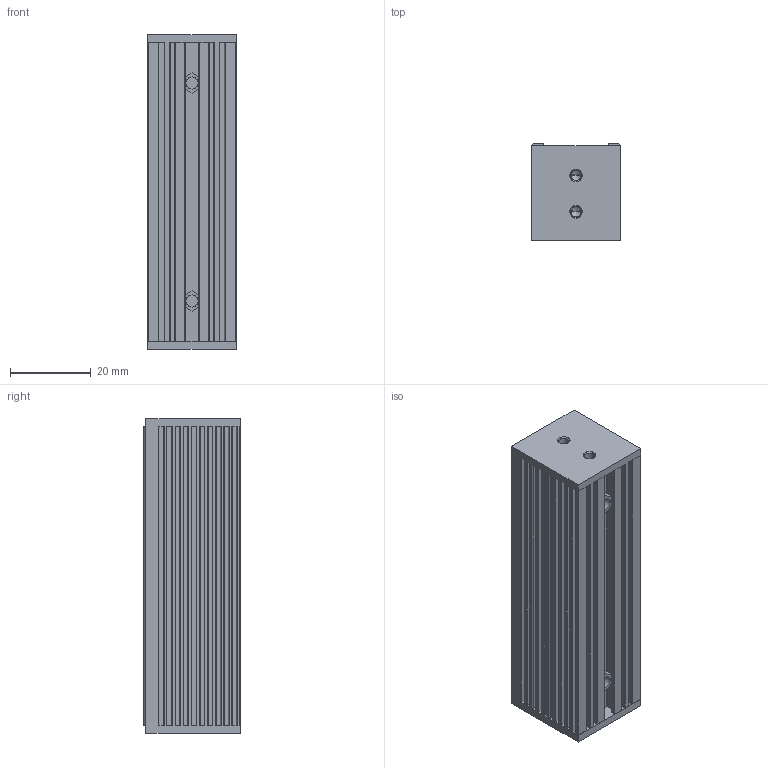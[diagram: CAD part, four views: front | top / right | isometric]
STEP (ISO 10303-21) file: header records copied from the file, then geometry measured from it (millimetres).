
FILE_DESCRIPTION((''),'2;1');
FILE_NAME('DSL','2020-03-23T',('ASUS'),(''),'PRO/ENGINEER BY PARAMETRIC TECHNOLOGY CORPORATION, 2008380','PRO/ENGINEER BY PARAMETRIC TECHNOLOGY CORPORATION, 2008380','');
FILE_SCHEMA(('CONFIG_CONTROL_DESIGN'));
Length unit declared in the file: millimetre
Products named in the file (1): DSL
Bounding box: 22 x 24.02 x 78 mm (x, y, z)
Volume: 36042 mm3; surface area: 14930.5 mm2
Topology: 1 solids, 5 shells, 276 faces, 712 edges, 464 vertices
Faces by surface type: plane 170, cylinder 86, cone 20
Entity records: 8383 total; most frequent: CARTESIAN_POINT 1497, DIRECTION 1428, ORIENTED_EDGE 1392, EDGE_CURVE 704, VECTOR 506, LINE 506, VERTEX_POINT 464, AXIS2_PLACEMENT_3D 461
